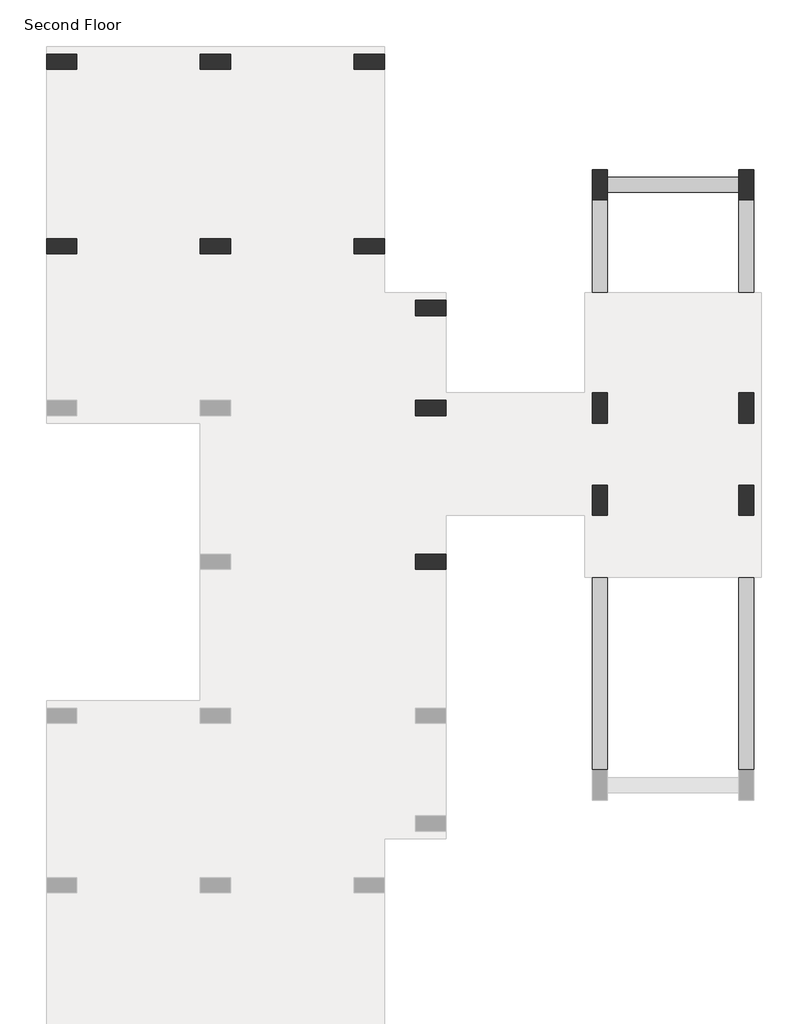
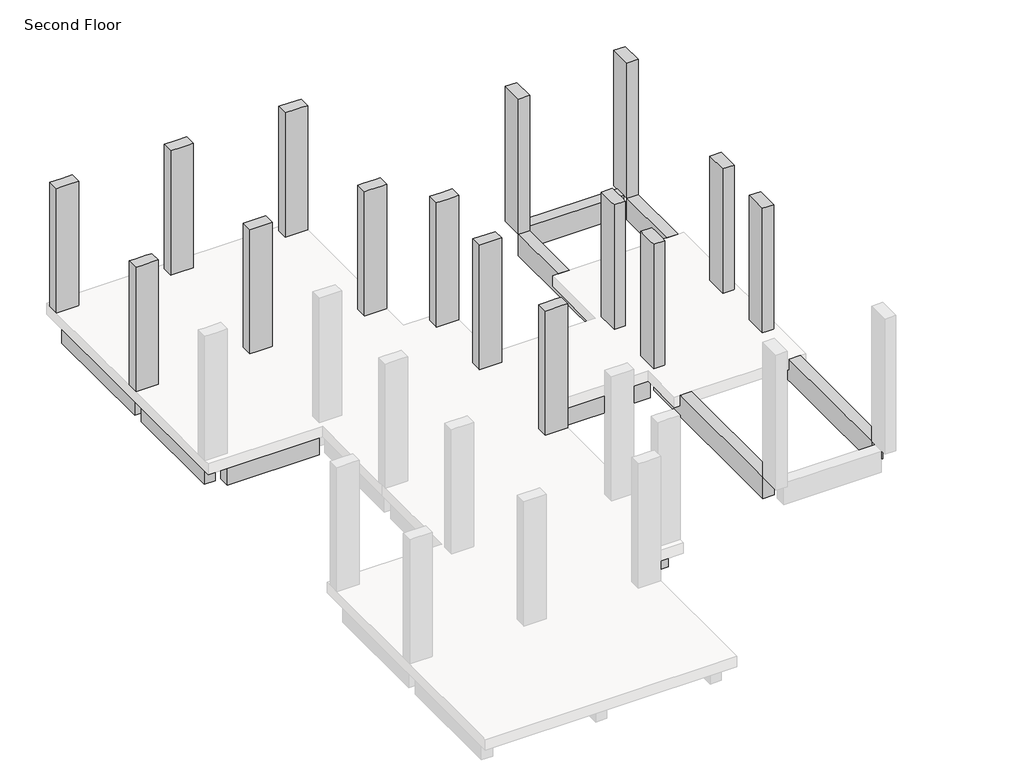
# One storey, part 2 of 2: 15 columns, 12 beams.
"""IFC4 building model written with IfcOpenShell, lengths in millimetres."""

import ifcopenshell
import ifcopenshell.guid

model = None  # the IFC model being written
_history = None  # IfcOwnerHistory: only IFC2X3 demands one
_inside = {}  # id of a spatial element -> (the spatial element, [elements in it])
_under = {}  # id of a project, library or spatial element -> (it, [spatial elements below it])
_declared = {}  # id of a project -> (the project, [libraries it declares])
_typed = {}  # id of a type object -> (the type object, [elements of that type])
_made_of = {}  # id of a material, layer set ... -> (it, [elements and type objects made of it])


def new_model(schema):
    """Start an empty IFC model of exactly this schema.

    Asked for "IFC4X3", IfcOpenShell would pick the latest addendum, in which some entities
    have other attributes; the version numbers below select the first issue.
    IFC2X3 requires an IfcOwnerHistory on every rooted entity: one is made here for all.
    """
    global model, _history
    if schema == "IFC4X3":
        model = ifcopenshell.file(schema_version=(4, 3, 0, 0))
    else:
        model = ifcopenshell.file(schema=schema)
    _inside.clear()
    _under.clear()
    _declared.clear()
    _typed.clear()
    _made_of.clear()
    _history = None
    if model.schema == "IFC2X3":
        org = make("IfcOrganization", Name="unknown")
        user = make(
            "IfcPersonAndOrganization",
            ThePerson=make("IfcPerson", FamilyName="unknown"),
            TheOrganization=org,
        )
        app = make(
            "IfcApplication",
            ApplicationDeveloper=org,
            Version="unknown",
            ApplicationFullName="unknown",
            ApplicationIdentifier="unknown",
        )
        _history = make(
            "IfcOwnerHistory",
            OwningUser=user,
            OwningApplication=app,
            ChangeAction="ADDED",
            CreationDate=0,
        )
    return model


def make(cls, **values):
    """One entity of the class cls with the attributes given. An attribute that is None is left unset."""
    return model.create_entity(
        cls, **{name: value for name, value in values.items() if value is not None}
    )


def rooted(cls, **values):
    """An entity with a GlobalId (a new one), such as an element, a storey or a relation."""
    return make(cls, GlobalId=ifcopenshell.guid.new(), OwnerHistory=_history, **values)


def si_unit(unit_type, name, prefix=None):
    """IfcSIUnit, for example si_unit("LENGTHUNIT", "METRE", prefix="MILLI")."""
    return make("IfcSIUnit", UnitType=unit_type, Prefix=prefix, Name=name)


def assignment(units):
    """IfcUnitAssignment: the units of a project."""
    return None if units is None else make("IfcUnitAssignment", Units=units)


def point(xyz):
    """IfcCartesianPoint."""
    return None if xyz is None else make("IfcCartesianPoint", Coordinates=xyz)


def direction(xyz):
    """IfcDirection."""
    return None if xyz is None else make("IfcDirection", DirectionRatios=xyz)


def frame(location, z_axis=None, x_axis=None):
    """IfcAxis2Placement3D, a coordinate frame: its origin and axes. An axis left out is left unset."""
    return make(
        "IfcAxis2Placement3D",
        Location=point(location),
        Axis=direction(z_axis),
        RefDirection=direction(x_axis),
    )


def origin():
    """The frame at (0, 0, 0) with its axes left unset."""
    return frame((0.0, 0.0, 0.0))


def place(relative_to, where):
    """IfcLocalPlacement: puts the frame where relative to a parent placement (None: the world)."""
    return make(
        "IfcLocalPlacement", PlacementRelTo=relative_to, RelativePlacement=where
    )


def context(
    kind, dimensions, precision=None, world=None, true_north=None, identifier=None
):
    """IfcGeometricRepresentationContext, for example the 3D "Model" context."""
    return make(
        "IfcGeometricRepresentationContext",
        ContextIdentifier=identifier,
        ContextType=kind,
        CoordinateSpaceDimension=dimensions,
        Precision=precision,
        WorldCoordinateSystem=world,
        TrueNorth=true_north,
    )


def project(units=None, contexts=None):
    """IfcProject with its units and contexts."""
    return rooted(
        "IfcProject",
        Name="project",
        RepresentationContexts=contexts,
        UnitsInContext=assignment(units),
    )


def spatial(cls, under=None, at=None, **own):
    """A site, building, storey or space (cls), placed at a placement, below another one or the project."""
    s = rooted(cls, ObjectPlacement=at, **own)
    if under is not None:
        _under.setdefault(under.id(), (under, []))[1].append(s)
    return s


def polyline(points):
    """IfcPolyline through the points."""
    return make("IfcPolyline", Points=[point(p) for p in points])


def outline(outer, holes=None, kind="AREA"):
    """IfcArbitraryClosedProfileDef: a profile drawn as a closed curve; with holes, ...WithVoids."""
    if holes is None:
        return make("IfcArbitraryClosedProfileDef", ProfileType=kind, OuterCurve=outer)
    return make(
        "IfcArbitraryProfileDefWithVoids",
        ProfileType=kind,
        OuterCurve=outer,
        InnerCurves=holes,
    )


def extrude(swept, where, along, depth):
    """IfcExtrudedAreaSolid: the profile swept, set in the frame where, extruded along a direction by depth."""
    return make(
        "IfcExtrudedAreaSolid",
        SweptArea=swept,
        Position=where,
        ExtrudedDirection=direction(along),
        Depth=depth,
    )


def faces_of(points, faces, orient=None, outer=None):
    """IfcFace entities. A face is a list of loops; a loop is a list of indices into points, from 0.

    orient and outer hold one flag for each loop. By default every Orientation is true, the
    first loop of a face is its IfcFaceOuterBound and the others are IfcFaceBound.
    """
    made = []
    for i, loops in enumerate(faces):
        bounds = []
        for j, loop in enumerate(loops):
            is_outer = j == 0 if outer is None else outer[i][j]
            bounds.append(
                make(
                    "IfcFaceOuterBound" if is_outer else "IfcFaceBound",
                    Bound=make("IfcPolyLoop", Polygon=[points[k] for k in loop]),
                    Orientation=True if orient is None else orient[i][j],
                )
            )
        made.append(make("IfcFace", Bounds=bounds))
    return made


def faceted_brep(points, faces, orient=None, outer=None, voids=None):
    """IfcFacetedBrep: a solid bounded by flat faces; with voids (closed shells), ...WithVoids."""
    shared = [point(p) for p in points]
    hull = make("IfcClosedShell", CfsFaces=faces_of(shared, faces, orient, outer))
    if voids is None:
        return make("IfcFacetedBrep", Outer=hull)
    return make(
        "IfcFacetedBrepWithVoids",
        Outer=hull,
        Voids=[
            make(cls, CfsFaces=faces_of(shared, fs, o, b)) for cls, fs, o, b in voids
        ],
    )


def shape(context_of_items, identifier, shape_type, items):
    """IfcShapeRepresentation: the items that make up one representation, for example the "Body"."""
    return make(
        "IfcShapeRepresentation",
        ContextOfItems=context_of_items,
        RepresentationIdentifier=identifier,
        RepresentationType=shape_type,
        Items=items,
    )


def made_of(thing, what):
    """Note that an element or type object is made of a material, layer set ...; save() writes the relation."""
    if what is not None:
        _made_of.setdefault(what.id(), (what, []))[1].append(thing)
    return thing


def element(
    cls,
    number,
    at=None,
    inside=None,
    cuts=None,
    type_object=None,
    material=None,
    context=None,
    identifier="Body",
    shape_type=None,
    held_by="IfcProductDefinitionShape",
    body=None,
    shapes=None,
    **own,
):
    """One element of the class cls, such as IfcWall. Its Tag is "e" and its number.

    at: its placement. inside: the storey or other place that contains it. cuts: it is an
    opening in that element (IfcRelVoidsElement). A single representation is given by context,
    identifier, shape_type and body (its items); several are given by shapes. held_by: the class
    of the entity that holds the representations. save() writes the other relations.
    """
    e = rooted(cls, Tag="e%d" % number, ObjectPlacement=at, **own)
    if body is not None:
        shapes = [shape(context, identifier, shape_type, body)]
    if shapes is not None:
        e.Representation = make(held_by, Representations=shapes)
    if inside is not None:
        _inside.setdefault(inside.id(), (inside, []))[1].append(e)
    if cuts is not None:
        rooted(
            "IfcRelVoidsElement", RelatingBuildingElement=cuts, RelatedOpeningElement=e
        )
    if type_object is not None:
        _typed.setdefault(type_object.id(), (type_object, []))[1].append(e)
    return made_of(e, material)


def aggregate(whole, parts):
    """IfcRelAggregates: a whole, such as a stair, and the parts it consists of."""
    return rooted("IfcRelAggregates", RelatingObject=whole, RelatedObjects=parts)


def save(model, path):
    """Write the relations noted so far, then the file.

    IfcRelAggregates (storeys below a building ...), IfcRelContainedInSpatialStructure (elements
    in a storey), IfcRelDefinesByType, IfcRelAssociatesMaterial and IfcRelDeclares: one each for
    every whole, place, type object, material and project.
    """
    for whole, parts in _under.values():
        aggregate(whole, parts)
    for where, things in _inside.values():
        rooted(
            "IfcRelContainedInSpatialStructure",
            RelatedElements=things,
            RelatingStructure=where,
        )
    for kind, things in _typed.values():
        rooted("IfcRelDefinesByType", RelatedObjects=things, RelatingType=kind)
    for what, things in _made_of.values():
        rooted("IfcRelAssociatesMaterial", RelatedObjects=things, RelatingMaterial=what)
    for by, libraries in _declared.values():
        rooted("IfcRelDeclares", RelatingContext=by, RelatedDefinitions=libraries)
    model.write(path)


model = new_model("IFC4")

# Units and contexts
model_context = context("Model", 3, world=origin())
ifc_project = project(units=[si_unit("LENGTHUNIT", "METRE", prefix="MILLI")], contexts=[model_context])

# Site, building, storey
site = spatial("IfcSite", under=ifc_project)
building = spatial("IfcBuilding", under=site)
storey = spatial("IfcBuildingStorey", under=building, Name="Second Floor", Elevation=3810.0)

# Beams
placement = place(None, origin())
element("IfcBeam", 1, ObjectType="M_Concrete-Rectangular Beam : 300 x 600mm", at=placement, inside=storey, context=model_context, shape_type="Brep", body=[
    faceted_brep([(-10964.7526929, 13307.19569, 3510.0), (-14012.7526929, 13307.19569, 3510.0), (-14012.7526929, 13157.19569, 3510.0), (-14012.7526929, 13007.19569, 3510.0), (-13862.7526929, 13007.19569, 3510.0), (-11114.7526929, 13007.19569, 3510.0), (-10964.7526929, 13007.19569, 3510.0), (-10964.7526929, 13157.19569, 3510.0), (-14012.7526929, 13007.19569, 3505.2), (-13712.7526929, 13007.19569, 3505.2), (-13712.7526929, 13007.19569, 2910.0), (-11264.7526929, 13007.19569, 2910.0), (-11264.7526929, 13007.19569, 3505.2), (-10964.7526929, 13007.19569, 3505.2), (-13712.7526929, 13307.19569, 2910.0), (-11264.7526929, 13307.19569, 2910.0), (-10964.7526929, 13307.19569, 3505.2), (-11264.7526929, 13307.19569, 3505.2), (-13712.7526929, 13307.19569, 3505.2), (-14012.7526929, 13307.19569, 3505.2), (-14012.7526929, 13157.19569, 3505.2), (-10964.7526929, 13157.19569, 3505.2)], [[[0, 1, 2, 3, 4, 5, 6, 7]], [[6, 5, 4, 3, 8, 9, 10, 11, 12, 13]], [[10, 14, 15, 11]], [[1, 0, 16, 17, 15, 14, 18, 19]], [[9, 18, 14, 10]], [[18, 9, 8, 20, 19]], [[17, 12, 11, 15]], [[12, 17, 16, 21, 13]], [[3, 2, 1, 19, 20, 8]], [[0, 7, 6, 13, 21, 16]]]),
])
element("IfcBeam", 2, ObjectType="M_Concrete-Rectangular Beam : 300 x 600mm", at=placement, inside=storey, context=model_context, shape_type="Brep", body=[
    faceted_brep([(-7916.7526929, 13307.19569, 3510.0), (-10964.7526929, 13307.19569, 3510.0), (-10964.7526929, 13157.19569, 3510.0), (-10814.7526929, 13157.19569, 3510.0), (-10814.7526929, 13007.19569, 3510.0), (-8066.7526929, 13007.19569, 3510.0), (-7916.7526929, 13007.19569, 3510.0), (-7916.7526929, 13157.19569, 3510.0), (-10664.7526929, 13007.19569, 3505.2), (-10664.7526929, 13007.19569, 2910.0), (-8216.7526929, 13007.19569, 2910.0), (-8216.7526929, 13007.19569, 3505.2), (-7916.7526929, 13007.19569, 3505.2), (-10814.7526929, 13007.19569, 3505.2), (-10664.7526929, 13307.19569, 2910.0), (-8216.7526929, 13307.19569, 2910.0), (-7916.7526929, 13307.19569, 3505.2), (-8216.7526929, 13307.19569, 3505.2), (-10664.7526929, 13307.19569, 3505.2), (-10964.7526929, 13307.19569, 3505.2), (-10814.7526929, 13157.19569, 3505.2), (-10964.7526929, 13157.19569, 3505.2), (-7916.7526929, 13157.19569, 3505.2)], [[[0, 1, 2, 3, 4, 5, 6, 7]], [[8, 9, 10, 11, 12, 6, 5, 4, 13]], [[9, 14, 15, 10]], [[1, 0, 16, 17, 15, 14, 18, 19]], [[8, 18, 14, 9]], [[18, 8, 13, 20, 21, 19]], [[17, 11, 10, 15]], [[11, 17, 16, 22, 12]], [[3, 20, 13, 4]], [[1, 19, 21, 2]], [[0, 7, 6, 12, 22, 16]], [[20, 3, 2, 21]]]),
])
element("IfcBeam", 3, ObjectType="M_Concrete-Rectangular Beam : 300 x 600mm", at=placement, inside=storey, context=model_context, shape_type="Brep", body=[
    faceted_brep([(-14162.7526929, 13157.19569, 3510.0), (-14162.7526929, 6299.19569, 3510.0), (-14012.7526929, 6299.19569, 3510.0), (-13862.7526929, 6299.19569, 3510.0), (-13862.7526929, 6449.19569, 3510.0), (-13862.7526929, 9349.59569, 3510.0), (-13862.7526929, 9649.59569, 3510.0), (-13862.7526929, 13007.19569, 3510.0), (-14012.7526929, 13007.19569, 3510.0), (-14012.7526929, 13157.19569, 3510.0), (-14162.7526929, 13157.19569, 3505.2), (-14162.7526929, 13007.19569, 3505.2), (-14162.7526929, 13007.19569, 2910.0), (-14162.7526929, 9649.59569, 2910.0), (-14162.7526929, 9649.59569, 3505.2), (-14162.7526929, 9349.59569, 3505.2), (-14162.7526929, 9349.59569, 2910.0), (-14162.7526929, 6449.19569, 2910.0), (-14162.7526929, 6449.19569, 3505.2), (-14162.7526929, 6299.19569, 3505.2), (-13862.7526929, 9349.59569, 2910.0), (-13862.7526929, 6449.19569, 2910.0), (-13862.7526929, 9649.59569, 3505.2), (-13862.7526929, 9649.59569, 2910.0), (-13862.7526929, 13007.19569, 2910.0), (-13862.7526929, 6299.19569, 3505.2), (-13862.7526929, 6449.19569, 3505.2), (-13862.7526929, 9349.59569, 3505.2), (-14012.7526929, 13007.19569, 3505.2), (-14012.7526929, 13157.19569, 3505.2), (-14012.7526929, 6299.19569, 3505.2)], [[[0, 1, 2, 3, 4, 5, 6, 7, 8, 9]], [[1, 0, 10, 11, 12, 13, 14, 15, 16, 17, 18, 19]], [[16, 20, 21, 17]], [[22, 23, 24, 7, 6, 5, 4, 3, 25, 26, 21, 20, 27]], [[8, 7, 24, 12, 11, 28]], [[28, 11, 10, 29]], [[22, 14, 13, 23]], [[15, 27, 20, 16]], [[14, 22, 27, 15]], [[23, 13, 12, 24]], [[26, 18, 17, 21]], [[18, 26, 25, 30, 19]], [[0, 9, 29, 10]], [[3, 2, 1, 19, 30, 25]], [[9, 8, 28, 29]]]),
])
element("IfcBeam", 4, ObjectType="M_Concrete-Rectangular Beam : 300 x 600mm", at=placement, inside=storey, context=model_context, shape_type="Brep", body=[
    faceted_brep([(-13862.7526929, 9649.59569, 3510.0), (-13862.7526929, 9349.59569, 3510.0), (-11114.7526929, 9349.59569, 3510.0), (-10814.7526929, 9349.59569, 3510.0), (-8066.7526929, 9349.59569, 3510.0), (-8066.7526929, 9649.59569, 3510.0), (-10814.7526929, 9649.59569, 3510.0), (-11114.7526929, 9649.59569, 3510.0), (-13862.7526929, 9349.59569, 3505.2), (-13712.7526929, 9349.59569, 3505.2), (-13712.7526929, 9349.59569, 2910.0), (-11264.7526929, 9349.59569, 2910.0), (-11264.7526929, 9349.59569, 3505.2), (-10664.7526929, 9349.59569, 3505.2), (-10664.7526929, 9349.59569, 2910.0), (-8216.7526929, 9349.59569, 2910.0), (-8216.7526929, 9349.59569, 3505.2), (-8066.7526929, 9349.59569, 3505.2), (-13712.7526929, 9649.59569, 2910.0), (-11264.7526929, 9649.59569, 2910.0), (-13862.7526929, 9649.59569, 3505.2), (-8066.7526929, 9649.59569, 3505.2), (-8216.7526929, 9649.59569, 3505.2), (-8216.7526929, 9649.59569, 2910.0), (-10664.7526929, 9649.59569, 2910.0), (-10664.7526929, 9649.59569, 3505.2), (-11264.7526929, 9649.59569, 3505.2), (-13712.7526929, 9649.59569, 3505.2)], [[[0, 1, 2, 3, 4, 5, 6, 7]], [[1, 8, 9, 10, 11, 12, 13, 14, 15, 16, 17, 4, 3, 2]], [[10, 18, 19, 11]], [[20, 0, 7, 6, 5, 21, 22, 23, 24, 25, 26, 19, 18, 27]], [[1, 0, 20, 8]], [[9, 27, 18, 10]], [[27, 9, 8, 20]], [[13, 25, 24, 14]], [[26, 12, 11, 19]], [[25, 13, 12, 26]], [[14, 24, 23, 15]], [[22, 16, 15, 23]], [[16, 22, 21, 17]], [[5, 4, 17, 21]]]),
])
element("IfcBeam", 5, ObjectType="M_Concrete-Rectangular Beam : 300 x 600mm", at=placement, inside=storey, context=model_context, shape_type="Brep", body=[
    faceted_brep([(-13862.7526929, 6449.19569, 3510.0), (-13862.7526929, 6299.19569, 3510.0), (-14012.7526929, 6299.19569, 3510.0), (-14012.7526929, 6149.19569, 3510.0), (-11114.7526929, 6149.19569, 3510.0), (-10814.7526929, 6149.19569, 3510.0), (-6847.5526929, 6149.19569, 3510.0), (-6547.5526929, 6149.19569, 3510.0), (-3494.7526929, 6149.19569, 3510.0), (-3494.7526929, 6449.19569, 3510.0), (-6547.5526929, 6449.19569, 3510.0), (-6847.5526929, 6449.19569, 3510.0), (-10814.7526929, 6449.19569, 3510.0), (-11114.7526929, 6449.19569, 3510.0), (-6397.5526929, 6149.19569, 3505.2), (-6397.5526929, 6149.19569, 2910.0), (-3494.7526929, 6149.19569, 2910.0), (-3494.7526929, 6149.19569, 3210.0), (-14012.7526929, 6149.19569, 3505.2), (-13712.7526929, 6149.19569, 3505.2), (-13712.7526929, 6149.19569, 2910.0), (-11264.7526929, 6149.19569, 2910.0), (-11264.7526929, 6149.19569, 3505.2), (-10664.7526929, 6149.19569, 3505.2), (-10664.7526929, 6149.19569, 2910.0), (-6997.5526929, 6149.19569, 2910.0), (-6997.5526929, 6149.19569, 3505.2), (-11264.7526929, 6449.19569, 2910.0), (-13712.7526929, 6449.19569, 2910.0), (-6397.5526929, 6449.19569, 2910.0), (-6397.5526929, 6449.19569, 3505.2), (-6997.5526929, 6449.19569, 3505.2), (-6997.5526929, 6449.19569, 2910.0), (-10664.7526929, 6449.19569, 2910.0), (-10664.7526929, 6449.19569, 3505.2), (-11264.7526929, 6449.19569, 3505.2), (-13712.7526929, 6449.19569, 3505.2), (-13862.7526929, 6449.19569, 3505.2), (-3494.7526929, 6449.19569, 3210.0), (-3494.7526929, 6449.19569, 2910.0), (-13862.7526929, 6299.19569, 3505.2), (-14012.7526929, 6299.19569, 3505.2)], [[[0, 1, 2, 3, 4, 5, 6, 7, 8, 9, 10, 11, 12, 13]], [[14, 15, 16, 17, 8, 7, 6, 5, 4, 3, 18, 19, 20, 21, 22, 23, 24, 25, 26]], [[27, 21, 20, 28]], [[29, 30, 31, 32, 33, 34, 35, 27, 28, 36, 37, 0, 13, 12, 11, 10, 9, 38, 39]], [[1, 0, 37, 40]], [[14, 30, 29, 15]], [[31, 26, 25, 32]], [[30, 14, 26, 31]], [[23, 34, 33, 24]], [[35, 22, 21, 27]], [[34, 23, 22, 35]], [[19, 36, 28, 20]], [[36, 19, 18, 41, 40, 37]], [[9, 8, 17, 16, 39, 38]], [[32, 25, 24, 33]], [[15, 29, 39, 16]], [[3, 2, 41, 18]], [[2, 1, 40, 41]]]),
    faceted_brep([(-599.1526929, 6449.19569, 3510.0), (-599.1526929, 6149.19569, 3510.0), (-599.1526929, 6149.19569, 2910.0), (-599.1526929, 6449.19569, 2910.0), (-3194.7526929, 6149.19569, 2910.0), (-3194.7526929, 6449.19569, 2910.0), (-3194.7526929, 6149.19569, 3510.0), (-3194.7526929, 6449.19569, 3510.0), (-3194.7526929, 6449.19569, 3210.0), (-3194.7526929, 6149.19569, 3210.0)], [[[0, 1, 2, 3]], [[3, 2, 4, 5]], [[6, 7, 8, 5, 4, 9]], [[1, 0, 7, 6]], [[2, 1, 6, 9, 4]], [[0, 3, 5, 8, 7]]]),
])
element("IfcBeam", 6, ObjectType="M_Concrete-Rectangular Beam : 300 x 600mm", at=placement, inside=storey, context=model_context, shape_type="Brep", body=[
    faceted_brep([(-7916.7526929, 13007.19569, 3510.0), (-8066.7526929, 13007.19569, 3510.0), (-8066.7526929, 9649.59569, 3510.0), (-8066.7526929, 9349.59569, 3510.0), (-8066.7526929, 8130.39569, 3510.0), (-7766.7526929, 8130.39569, 3510.0), (-7766.7526929, 8430.39569, 3510.0), (-7766.7526929, 13157.19569, 3510.0), (-7916.7526929, 13157.19569, 3510.0), (-8066.7526929, 13007.19569, 2910.0), (-8066.7526929, 9649.59569, 2910.0), (-8066.7526929, 9649.59569, 3505.2), (-8066.7526929, 9349.59569, 3505.2), (-8066.7526929, 9349.59569, 2910.0), (-8066.7526929, 8130.39569, 2910.0), (-7766.7526929, 13007.19569, 2910.0), (-7766.7526929, 9649.59569, 2910.0), (-7766.7526929, 13007.19569, 3505.2), (-7766.7526929, 13157.19569, 3505.2), (-7766.7526929, 8130.39569, 2910.0), (-7766.7526929, 8430.39569, 2910.0), (-7766.7526929, 9349.59569, 2910.0), (-7766.7526929, 9349.59569, 3505.2), (-7766.7526929, 9649.59569, 3505.2), (-7916.7526929, 13007.19569, 3505.2), (-7916.7526929, 13157.19569, 3505.2)], [[[0, 1, 2, 3, 4, 5, 6, 7, 8]], [[1, 9, 10, 11, 12, 13, 14, 4, 3, 2]], [[9, 15, 16, 10]], [[15, 17, 18, 7, 6, 5, 19, 20, 21, 22, 23, 16]], [[1, 0, 24, 17, 15, 9]], [[17, 24, 25, 18]], [[23, 11, 10, 16]], [[12, 22, 21, 13]], [[11, 23, 22, 12]], [[19, 14, 13, 21, 20]], [[8, 7, 18, 25]], [[5, 4, 14, 19]], [[0, 8, 25, 24]]]),
])
element("IfcBeam", 7, ObjectType="M_Concrete-Rectangular Beam : 300 x 600mm", at=placement, inside=storey, context=model_context, shape_type="Brep", body=[
    faceted_brep([(-7766.7526929, 8430.39569, 3510.0), (-7766.7526929, 8130.39569, 3510.0), (-6847.5526929, 8130.39569, 3510.0), (-6697.5526929, 8130.39569, 3510.0), (-6697.5526929, 8280.39569, 3510.0), (-6697.5526929, 8430.39569, 3510.0), (-7766.7526929, 8130.39569, 2910.0), (-6997.5526929, 8130.39569, 2910.0), (-6997.5526929, 8130.39569, 3505.2), (-6697.5526929, 8130.39569, 3505.2), (-7766.7526929, 8430.39569, 2910.0), (-6997.5526929, 8430.39569, 2910.0), (-6697.5526929, 8430.39569, 3505.2), (-6997.5526929, 8430.39569, 3505.2), (-6697.5526929, 8280.39569, 3505.2)], [[[0, 1, 2, 3, 4, 5]], [[3, 2, 1, 6, 7, 8, 9]], [[6, 10, 11, 7]], [[10, 0, 5, 12, 13, 11]], [[1, 0, 10, 6]], [[13, 8, 7, 11]], [[8, 13, 12, 14, 9]], [[5, 4, 3, 9, 14, 12]]]),
])
element("IfcBeam", 8, ObjectType="M_Concrete-Rectangular Beam : 300 x 600mm", at=placement, inside=storey, context=model_context, shape_type="Brep", body=[
    faceted_brep([(-6697.5526929, 8130.39569, 3510.0), (-6847.5526929, 8130.39569, 3510.0), (-6847.5526929, 6449.19569, 3510.0), (-6547.5526929, 6449.19569, 3510.0), (-6547.5526929, 8280.39569, 3510.0), (-6697.5526929, 8280.39569, 3510.0), (-6847.5526929, 6449.19569, 2910.0), (-6847.5526929, 8130.39569, 2910.0), (-6547.5526929, 6449.19569, 2910.0), (-6547.5526929, 8130.39569, 2910.0), (-6547.5526929, 8130.39569, 3505.2), (-6547.5526929, 8280.39569, 3505.2), (-6697.5526929, 8130.39569, 3505.2), (-6697.5526929, 8280.39569, 3505.2)], [[[0, 1, 2, 3, 4, 5]], [[6, 2, 1, 7]], [[8, 6, 7, 9]], [[3, 8, 9, 10, 11, 4]], [[1, 0, 12, 10, 9, 7]], [[10, 12, 13, 11]], [[6, 8, 3, 2]], [[5, 4, 11, 13]], [[0, 5, 13, 12]]]),
    faceted_brep([(-6847.5526929, 6149.19569, 3510.0), (-6547.5526929, 6149.19569, 3510.0), (-6547.5526929, 6149.19569, 2910.0), (-6847.5526929, 6149.19569, 2910.0), (-6847.5526929, 353.19569, 2910.0), (-6847.5526929, 3101.19569, 2910.0), (-6547.5526929, 3101.19569, 2910.0), (-6547.5526929, 353.19569, 2910.0), (-6547.5526929, 3401.19569, 3505.2), (-6847.5526929, 3401.19569, 3505.2), (-6847.5526929, 3401.19569, 2910.0), (-6547.5526929, 3401.19569, 2910.0), (-6847.5526929, 3101.19569, 3505.2), (-6547.5526929, 3101.19569, 3505.2), (-6547.5526929, 353.19569, 3505.2), (-6847.5526929, 353.19569, 3505.2), (-6847.5526929, 53.19569, 3505.2), (-6547.5526929, 53.19569, 3505.2), (-6547.5526929, 53.19569, 2910.0), (-6847.5526929, 53.19569, 2910.0), (-6547.5526929, -1780.40431, 3505.2), (-6847.5526929, -1780.40431, 3505.2), (-6847.5526929, -1780.40431, 2910.0), (-6547.5526929, -1780.40431, 2910.0), (-6547.5526929, -1930.40431, 3505.2), (-6697.5526929, -1930.40431, 3505.2), (-6847.5526929, -1930.40431, 3505.2), (-6847.5526929, -1930.40431, 3510.0), (-6697.5526929, -1930.40431, 3510.0), (-6547.5526929, -1930.40431, 3510.0), (-6547.5526929, 4320.39569, 3510.0), (-6547.5526929, 4620.39569, 3510.0), (-6847.5526929, 353.19569, 3510.0), (-6847.5526929, 53.19569, 3510.0), (-6847.5526929, -1780.40431, 3510.0), (-6547.5526929, 4320.39569, 2910.0), (-6547.5526929, 4620.39569, 2910.0)], [[[0, 1, 2, 3]], [[4, 5, 6, 7]], [[8, 9, 10, 11]], [[12, 13, 6, 5]], [[9, 8, 13, 12]], [[14, 15, 4, 7]], [[16, 17, 18, 19]], [[15, 14, 17, 16]], [[20, 21, 22, 23]], [[21, 20, 24, 25, 26]], [[27, 28, 29, 30, 31, 1, 0, 32, 33, 34]], [[0, 3, 10, 9, 12, 5, 4, 15, 16, 19, 22, 21, 26, 27, 34, 33, 32]], [[2, 1, 31, 30, 29, 24, 20, 23, 18, 17, 14, 7, 6, 13, 8, 11, 35, 36]], [[29, 28, 27, 26, 25, 24]], [[3, 2, 36, 35, 11, 10]], [[22, 19, 18, 23]]]),
])
element("IfcBeam", 9, ObjectType="M_Concrete-Rectangular Beam : 300 x 600mm", at=placement, inside=storey, context=model_context, shape_type="Brep", body=[
    faceted_brep([(-6547.5526929, 4620.39569, 3510.0), (-6547.5526929, 4320.39569, 3510.0), (-3494.7526929, 4320.39569, 3510.0), (-3494.7526929, 4620.39569, 3510.0), (-6547.5526929, 4320.39569, 2910.0), (-3494.7526929, 4320.39569, 2910.0), (-3494.7526929, 4320.39569, 3210.0), (-6547.5526929, 4620.39569, 2910.0), (-3494.7526929, 4620.39569, 2910.0), (-3494.7526929, 4620.39569, 3210.0)], [[[0, 1, 2, 3]], [[1, 4, 5, 6, 2]], [[4, 7, 8, 5]], [[7, 0, 3, 9, 8]], [[1, 0, 7, 4]], [[3, 2, 6, 5, 8, 9]]]),
    faceted_brep([(-599.1526929, 4620.39569, 3510.0), (-599.1526929, 4320.39569, 3510.0), (-599.1526929, 4320.39569, 2910.0), (-599.1526929, 4620.39569, 2910.0), (-3194.7526929, 4320.39569, 3510.0), (-3194.7526929, 4620.39569, 3510.0), (-3194.7526929, 4620.39569, 3210.0), (-3194.7526929, 4620.39569, 2910.0), (-3194.7526929, 4320.39569, 2910.0), (-3194.7526929, 4320.39569, 3210.0)], [[[0, 1, 2, 3]], [[4, 5, 6, 7, 8, 9]], [[1, 0, 5, 4]], [[2, 1, 4, 9, 8]], [[3, 2, 8, 7]], [[0, 3, 7, 6, 5]]]),
])
element("IfcBeam", 10, ObjectType="M_Concrete-Rectangular Beam : 300 x 600mm", at=placement, inside=storey, context=model_context, shape_type="SweptSolid", body=[
    extrude(outline(polyline([(-868.40431, 3210.0), (-868.40431, 3810.0), (2951.19569, 3810.0), (2951.19569, 3510.0), (4170.39569, 3510.0), (4170.39569, 3210.0), (-868.40431, 3210.0)])), frame((-3494.7526929, 0.0, 0.0), z_axis=(1.0, 0.0, 0.0), x_axis=(0.0, 1.0, 0.0)), (0.0, 0.0, 1.0), 300.0),
    extrude(outline(polyline([(10418.79569, 3810.0), (10418.79569, 3210.0), (6599.19569, 3210.0), (6599.19569, 3510.0), (8580.39569, 3510.0), (8580.39569, 3810.0), (10418.79569, 3810.0)])), frame((-3494.7526929, 0.0, 0.0), z_axis=(1.0, 0.0, 0.0), x_axis=(0.0, 1.0, 0.0)), (0.0, 0.0, 1.0), 300.0),
    extrude(outline(polyline([(-3494.7526929, 4770.39569), (-3494.7526929, 5999.19569), (-3194.7526929, 5999.19569), (-3194.7526929, 4770.39569), (-3494.7526929, 4770.39569)])), frame((0.0, 0.0, 3210.0), z_axis=(0.0, 0.0, 1.0), x_axis=(1.0, 0.0, 0.0)), (0.0, 0.0, 1.0), 300.0),
])
element("IfcBeam", 11, ObjectType="M_Concrete-Rectangular Beam : 300 x 600mm", at=placement, inside=storey, context=model_context, shape_type="SweptSolid", body=[
    extrude(outline(polyline([(10418.79569, 3810.0), (10418.79569, 3210.0), (6599.19569, 3210.0), (6599.19569, 3510.0), (8580.39569, 3510.0), (8580.39569, 3810.0), (10418.79569, 3810.0)])), frame((-599.1526929, 0.0, 0.0), z_axis=(1.0, 0.0, 0.0), x_axis=(0.0, 1.0, 0.0)), (0.0, 0.0, 1.0), 300.0),
    extrude(outline(polyline([(-868.40431, 3210.0), (-868.40431, 3810.0), (2951.19569, 3810.0), (2951.19569, 3510.0), (4170.39569, 3510.0), (4170.39569, 3210.0), (-868.40431, 3210.0)])), frame((-599.1526929, 0.0, 0.0), z_axis=(1.0, 0.0, 0.0), x_axis=(0.0, 1.0, 0.0)), (0.0, 0.0, 1.0), 300.0),
    extrude(outline(polyline([(-299.1526929, 5999.19569), (-299.1526929, 4770.39569), (-599.1526929, 4770.39569), (-599.1526929, 5999.19569), (-299.1526929, 5999.19569)])), frame((0.0, 0.0, 3210.0), z_axis=(0.0, 0.0, 1.0), x_axis=(1.0, 0.0, 0.0)), (0.0, 0.0, 1.0), 300.0),
])
element("IfcBeam", 12, ObjectType="M_Concrete-Rectangular Beam : 300 x 600mm", at=placement, inside=storey, context=model_context, shape_type="SweptSolid", body=[
    extrude(outline(polyline([(-3194.7526929, 10568.79569), (-3194.7526929, 10868.79569), (-599.1526929, 10868.79569), (-599.1526929, 10568.79569), (-3194.7526929, 10568.79569)])), frame((0.0, 0.0, 3210.0), z_axis=(0.0, 0.0, 1.0), x_axis=(1.0, 0.0, 0.0)), (0.0, 0.0, 1.0), 600.0),
])

# Columns
element("IfcColumn", 13, ObjectType="M_Concrete-Rectangular-Column : 300 x 600mm", at=placement, inside=storey, context=model_context, shape_type="Brep", body=[
    faceted_brep([(-14312.7526929, 13307.19569, 3810.0), (-13712.7526929, 13307.19569, 3810.0), (-13712.7526929, 13007.19569, 3810.0), (-14312.7526929, 13007.19569, 3810.0), (-14312.7526929, 13307.19569, 7315.2), (-14012.7526929, 13307.19569, 7315.2), (-13712.7526929, 13307.19569, 7315.2), (-13712.7526929, 13307.19569, 6720.0), (-13712.7526929, 13007.19569, 7315.2), (-13712.7526929, 13007.19569, 6720.0), (-14012.7526929, 13007.19569, 7315.2), (-14162.7526929, 13007.19569, 7315.2), (-14312.7526929, 13007.19569, 7315.2)], [[[0, 1, 2, 3]], [[4, 5, 6, 7, 1, 0]], [[6, 8, 9, 2, 1, 7]], [[8, 10, 11, 12, 3, 2, 9]], [[12, 4, 0, 3]], [[4, 12, 11, 10, 8, 6, 5]]]),
])
element("IfcColumn", 14, ObjectType="M_Concrete-Rectangular-Column : 300 x 600mm", at=placement, inside=storey, context=model_context, shape_type="Brep", body=[
    faceted_brep([(-11264.7526929, 13307.19569, 3810.0), (-10664.7526929, 13307.19569, 3810.0), (-10664.7526929, 13007.19569, 3810.0), (-11264.7526929, 13007.19569, 3810.0), (-11264.7526929, 13307.19569, 7315.2), (-10964.7526929, 13307.19569, 7315.2), (-10664.7526929, 13307.19569, 7315.2), (-10664.7526929, 13307.19569, 6720.0), (-11264.7526929, 13307.19569, 6720.0), (-10664.7526929, 13007.19569, 7315.2), (-10664.7526929, 13007.19569, 6720.0), (-10814.7526929, 13007.19569, 7315.2), (-10964.7526929, 13007.19569, 7315.2), (-11264.7526929, 13007.19569, 7315.2), (-11264.7526929, 13007.19569, 6720.0)], [[[0, 1, 2, 3]], [[4, 5, 6, 7, 1, 0, 8]], [[6, 9, 10, 2, 1, 7]], [[9, 11, 12, 13, 14, 3, 2, 10]], [[13, 4, 8, 0, 3, 14]], [[4, 13, 12, 11, 9, 6, 5]]]),
])
element("IfcColumn", 15, ObjectType="M_Concrete-Rectangular-Column : 300 x 600mm", at=placement, inside=storey, context=model_context, shape_type="Brep", body=[
    faceted_brep([(-8216.7526929, 13307.19569, 3810.0), (-7616.7526929, 13307.19569, 3810.0), (-7616.7526929, 13007.19569, 3810.0), (-8216.7526929, 13007.19569, 3810.0), (-8216.7526929, 13307.19569, 7315.2), (-7916.7526929, 13307.19569, 7315.2), (-7616.7526929, 13307.19569, 7315.2), (-8216.7526929, 13307.19569, 6720.0), (-7616.7526929, 13007.19569, 7315.2), (-7766.7526929, 13007.19569, 7315.2), (-7916.7526929, 13007.19569, 7315.2), (-8216.7526929, 13007.19569, 7315.2), (-8216.7526929, 13007.19569, 6720.0)], [[[0, 1, 2, 3]], [[4, 5, 6, 1, 0, 7]], [[6, 8, 2, 1]], [[8, 9, 10, 11, 12, 3, 2]], [[11, 4, 7, 0, 3, 12]], [[4, 11, 10, 9, 8, 6, 5]]]),
])
element("IfcColumn", 16, ObjectType="M_Concrete-Rectangular-Column : 300 x 600mm", at=placement, inside=storey, context=model_context, shape_type="Brep", body=[
    faceted_brep([(-14312.7526929, 9649.59569, 3810.0), (-13712.7526929, 9649.59569, 3810.0), (-13712.7526929, 9349.59569, 3810.0), (-14312.7526929, 9349.59569, 3810.0), (-14312.7526929, 9649.59569, 7315.2), (-14162.7526929, 9649.59569, 7315.2), (-13862.7526929, 9649.59569, 7315.2), (-13712.7526929, 9649.59569, 7315.2), (-13712.7526929, 9649.59569, 6720.0), (-13712.7526929, 9349.59569, 7315.2), (-13712.7526929, 9349.59569, 6720.0), (-13862.7526929, 9349.59569, 7315.2), (-14162.7526929, 9349.59569, 7315.2), (-14312.7526929, 9349.59569, 7315.2)], [[[0, 1, 2, 3]], [[4, 5, 6, 7, 8, 1, 0]], [[7, 9, 10, 2, 1, 8]], [[9, 11, 12, 13, 3, 2, 10]], [[13, 4, 0, 3]], [[4, 13, 12, 11, 9, 7, 6, 5]]]),
])
element("IfcColumn", 17, ObjectType="M_Concrete-Rectangular-Column : 300 x 600mm", at=placement, inside=storey, context=model_context, shape_type="Brep", body=[
    faceted_brep([(-11264.7526929, 9649.59569, 3810.0), (-10664.7526929, 9649.59569, 3810.0), (-10664.7526929, 9349.59569, 3810.0), (-11264.7526929, 9349.59569, 3810.0), (-11264.7526929, 9649.59569, 7315.2), (-10664.7526929, 9649.59569, 7315.2), (-10664.7526929, 9649.59569, 6720.0), (-11264.7526929, 9649.59569, 6720.0), (-10664.7526929, 9349.59569, 7315.2), (-10664.7526929, 9349.59569, 6720.0), (-11264.7526929, 9349.59569, 7315.2), (-11264.7526929, 9349.59569, 6720.0)], [[[0, 1, 2, 3]], [[4, 5, 6, 1, 0, 7]], [[5, 8, 9, 2, 1, 6]], [[8, 10, 11, 3, 2, 9]], [[10, 4, 7, 0, 3, 11]], [[4, 10, 8, 5]]]),
])
element("IfcColumn", 18, ObjectType="M_Concrete-Rectangular-Column : 300 x 600mm", at=placement, inside=storey, context=model_context, shape_type="Brep", body=[
    faceted_brep([(-8216.7526929, 9649.59569, 3810.0), (-7616.7526929, 9649.59569, 3810.0), (-7616.7526929, 9349.59569, 3810.0), (-8216.7526929, 9349.59569, 3810.0), (-8216.7526929, 9649.59569, 7315.2), (-8066.7526929, 9649.59569, 7315.2), (-7766.7526929, 9649.59569, 7315.2), (-7616.7526929, 9649.59569, 7315.2), (-8216.7526929, 9649.59569, 6720.0), (-7616.7526929, 9349.59569, 7315.2), (-7766.7526929, 9349.59569, 7315.2), (-8066.7526929, 9349.59569, 7315.2), (-8216.7526929, 9349.59569, 7315.2), (-8216.7526929, 9349.59569, 6720.0)], [[[0, 1, 2, 3]], [[4, 5, 6, 7, 1, 0, 8]], [[7, 9, 2, 1]], [[9, 10, 11, 12, 13, 3, 2]], [[12, 4, 8, 0, 3, 13]], [[4, 12, 11, 10, 9, 7, 6, 5]]]),
])
element("IfcColumn", 19, ObjectType="M_Concrete-Rectangular-Column : 300 x 600mm", at=placement, inside=storey, context=model_context, shape_type="Brep", body=[
    faceted_brep([(-6997.5526929, 8430.39569, 3810.0), (-6397.5526929, 8430.39569, 3810.0), (-6397.5526929, 8130.39569, 3810.0), (-6997.5526929, 8130.39569, 3810.0), (-6997.5526929, 8430.39569, 7315.2), (-6697.5526929, 8430.39569, 7315.2), (-6397.5526929, 8430.39569, 7315.2), (-6997.5526929, 8430.39569, 6720.0), (-6397.5526929, 8130.39569, 7315.2), (-6547.5526929, 8130.39569, 7315.2), (-6697.5526929, 8130.39569, 7315.2), (-6997.5526929, 8130.39569, 7315.2), (-6997.5526929, 8130.39569, 6720.0)], [[[0, 1, 2, 3]], [[4, 5, 6, 1, 0, 7]], [[6, 8, 2, 1]], [[8, 9, 10, 11, 12, 3, 2]], [[11, 4, 7, 0, 3, 12]], [[4, 11, 10, 9, 8, 6, 5]]]),
])
element("IfcColumn", 20, ObjectType="M_Concrete-Rectangular-Column : 300 x 600mm", at=placement, inside=storey, context=model_context, shape_type="Brep", body=[
    faceted_brep([(-6997.5526929, 6449.19569, 3810.0), (-6397.5526929, 6449.19569, 3810.0), (-6397.5526929, 6149.19569, 3810.0), (-6997.5526929, 6149.19569, 3810.0), (-6997.5526929, 6449.19569, 7315.2), (-6397.5526929, 6449.19569, 7315.2), (-6397.5526929, 6449.19569, 6720.0), (-6997.5526929, 6449.19569, 6720.0), (-6397.5526929, 6149.19569, 7315.2), (-6397.5526929, 6149.19569, 6720.0), (-6997.5526929, 6149.19569, 7315.2), (-6997.5526929, 6149.19569, 6720.0)], [[[0, 1, 2, 3]], [[4, 5, 6, 1, 0, 7]], [[5, 8, 9, 2, 1, 6]], [[8, 10, 11, 3, 2, 9]], [[10, 4, 7, 0, 3, 11]], [[4, 10, 8, 5]]]),
])
element("IfcColumn", 21, ObjectType="M_Concrete-Rectangular-Column : 300 x 600mm", at=placement, inside=storey, context=model_context, shape_type="Brep", body=[
    faceted_brep([(-3494.7526929, 5999.19569, 3810.0), (-3494.7526929, 6599.19569, 3810.0), (-3194.7526929, 6599.19569, 3810.0), (-3194.7526929, 5999.19569, 3810.0), (-3494.7526929, 5999.19569, 7020.0), (-3494.7526929, 5999.19569, 7320.0), (-3494.7526929, 6149.19569, 7320.0), (-3494.7526929, 6449.19569, 7320.0), (-3494.7526929, 6599.19569, 7320.0), (-3494.7526929, 6599.19569, 7020.0), (-3194.7526929, 6599.19569, 7320.0), (-3194.7526929, 6599.19569, 7020.0), (-3194.7526929, 6449.19569, 7320.0), (-3194.7526929, 6149.19569, 7320.0), (-3194.7526929, 5999.19569, 7320.0), (-3194.7526929, 5999.19569, 7020.0)], [[[0, 1, 2, 3]], [[1, 0, 4, 5, 6, 7, 8, 9]], [[2, 1, 9, 8, 10, 11]], [[3, 2, 11, 10, 12, 13, 14, 15]], [[0, 3, 15, 14, 5, 4]], [[8, 7, 6, 5, 14, 13, 12, 10]]]),
])
element("IfcColumn", 22, ObjectType="M_Concrete-Rectangular-Column : 300 x 600mm", at=placement, inside=storey, context=model_context, shape_type="Brep", body=[
    faceted_brep([(-599.1526929, 5999.19569, 3810.0), (-599.1526929, 6599.19569, 3810.0), (-299.1526929, 6599.19569, 3810.0), (-299.1526929, 5999.19569, 3810.0), (-599.1526929, 5999.19569, 7020.0), (-599.1526929, 5999.19569, 7320.0), (-599.1526929, 6599.19569, 7320.0), (-599.1526929, 6599.19569, 7020.0), (-299.1526929, 6599.19569, 7320.0), (-299.1526929, 6599.19569, 7020.0), (-299.1526929, 5999.19569, 7320.0), (-299.1526929, 5999.19569, 7020.0)], [[[0, 1, 2, 3]], [[1, 0, 4, 5, 6, 7]], [[2, 1, 7, 6, 8, 9]], [[3, 2, 9, 8, 10, 11]], [[0, 3, 11, 10, 5, 4]], [[6, 5, 10, 8]]]),
])
element("IfcColumn", 23, ObjectType="M_Concrete-Rectangular-Column : 300 x 600mm", at=placement, inside=storey, context=model_context, shape_type="Brep", body=[
    faceted_brep([(-3494.7526929, 4170.39569, 3810.0), (-3494.7526929, 4770.39569, 3810.0), (-3194.7526929, 4770.39569, 3810.0), (-3194.7526929, 4170.39569, 3810.0), (-3494.7526929, 4170.39569, 7020.0), (-3494.7526929, 4170.39569, 7320.0), (-3494.7526929, 4320.39569, 7320.0), (-3494.7526929, 4620.39569, 7320.0), (-3494.7526929, 4770.39569, 7320.0), (-3494.7526929, 4770.39569, 7020.0), (-3194.7526929, 4770.39569, 7320.0), (-3194.7526929, 4770.39569, 7020.0), (-3194.7526929, 4620.39569, 7320.0), (-3194.7526929, 4320.39569, 7320.0), (-3194.7526929, 4170.39569, 7320.0), (-3194.7526929, 4170.39569, 7020.0)], [[[0, 1, 2, 3]], [[1, 0, 4, 5, 6, 7, 8, 9]], [[2, 1, 9, 8, 10, 11]], [[3, 2, 11, 10, 12, 13, 14, 15]], [[0, 3, 15, 14, 5, 4]], [[8, 7, 6, 5, 14, 13, 12, 10]]]),
])
element("IfcColumn", 24, ObjectType="M_Concrete-Rectangular-Column : 300 x 600mm", at=placement, inside=storey, context=model_context, shape_type="Brep", body=[
    faceted_brep([(-599.1526929, 4170.39569, 3810.0), (-599.1526929, 4770.39569, 3810.0), (-299.1526929, 4770.39569, 3810.0), (-299.1526929, 4170.39569, 3810.0), (-599.1526929, 4170.39569, 7020.0), (-599.1526929, 4170.39569, 7320.0), (-599.1526929, 4770.39569, 7320.0), (-599.1526929, 4770.39569, 7020.0), (-299.1526929, 4770.39569, 7320.0), (-299.1526929, 4770.39569, 7020.0), (-299.1526929, 4170.39569, 7320.0), (-299.1526929, 4170.39569, 7020.0)], [[[0, 1, 2, 3]], [[1, 0, 4, 5, 6, 7]], [[2, 1, 7, 6, 8, 9]], [[3, 2, 9, 8, 10, 11]], [[0, 3, 11, 10, 5, 4]], [[6, 5, 10, 8]]]),
])
element("IfcColumn", 25, ObjectType="M_Concrete-Rectangular-Column : 300 x 600mm", at=placement, inside=storey, context=model_context, shape_type="Brep", body=[
    faceted_brep([(-6997.5526929, 3401.19569, 3810.0), (-6397.5526929, 3401.19569, 3810.0), (-6397.5526929, 3101.19569, 3810.0), (-6997.5526929, 3101.19569, 3810.0), (-6997.5526929, 3401.19569, 7315.2), (-6847.5526929, 3401.19569, 7315.2), (-6547.5526929, 3401.19569, 7315.2), (-6397.5526929, 3401.19569, 7315.2), (-6397.5526929, 3101.19569, 7315.2), (-6547.5526929, 3101.19569, 7315.2), (-6847.5526929, 3101.19569, 7315.2), (-6997.5526929, 3101.19569, 7315.2)], [[[0, 1, 2, 3]], [[4, 5, 6, 7, 1, 0]], [[7, 8, 2, 1]], [[8, 9, 10, 11, 3, 2]], [[11, 4, 0, 3]], [[4, 11, 10, 9, 8, 7, 6, 5]]]),
])
element("IfcColumn", 26, ObjectType="M_Concrete-Rectangular-Column : 300 x 600mm", at=placement, inside=storey, context=model_context, shape_type="SweptSolid", body=[
    extrude(outline(polyline([(-3494.7526929, 10418.79569), (-3494.7526929, 11018.79569), (-3194.7526929, 11018.79569), (-3194.7526929, 10418.79569), (-3494.7526929, 10418.79569)])), frame((0.0, 0.0, 3810.0), z_axis=(0.0, 0.0, 1.0), x_axis=(1.0, 0.0, 0.0)), (0.0, 0.0, 1.0), 3810.0),
])
element("IfcColumn", 27, ObjectType="M_Concrete-Rectangular-Column : 300 x 600mm", at=placement, inside=storey, context=model_context, shape_type="SweptSolid", body=[
    extrude(outline(polyline([(-599.1526929, 10418.79569), (-599.1526929, 11018.79569), (-299.1526929, 11018.79569), (-299.1526929, 10418.79569), (-599.1526929, 10418.79569)])), frame((0.0, 0.0, 3810.0), z_axis=(0.0, 0.0, 1.0), x_axis=(1.0, 0.0, 0.0)), (0.0, 0.0, 1.0), 3810.0),
])

save(model, "model.ifc")
